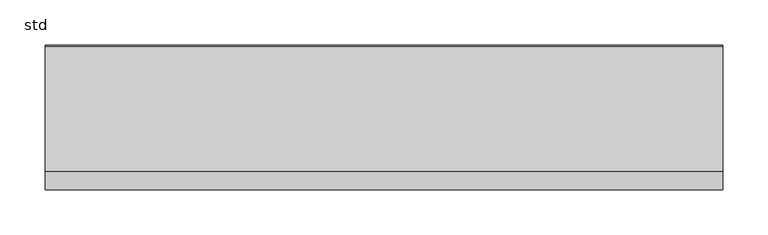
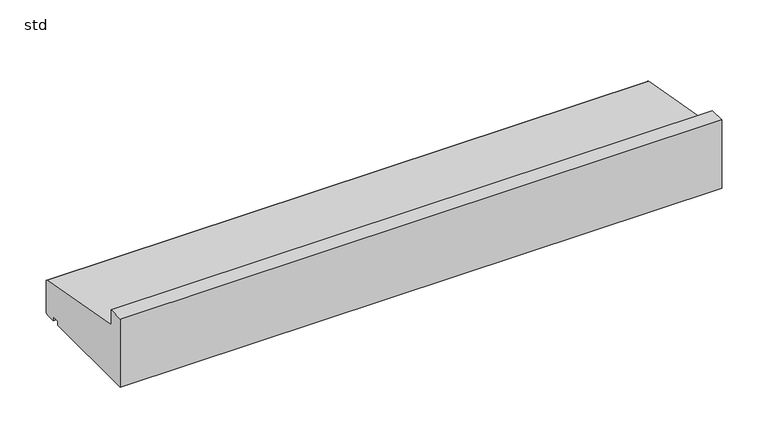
"""IFC4 building model written with IfcOpenShell, lengths in millimetres: proxy geometry, 400_35_NS_raamdorpel_geprofileerd_natuursteen_klik : std."""

from ifc_helpers import new_model, si_unit, point, frame, frame_2d, origin, place, context, project, spatial, polyline, circle_curve, trimmed, segment, composite_curve, outline, extrude, source, transform, mapped, element, save


def std_403fbab1(model_context):
    return source(origin(), model_context, "Body", "SweptSolid", [
        extrude(outline(composite_curve([segment(polyline([(160.0, 2.0), (158.0, 0.0), (145.0, 0.0), (145.0, 5.0), (135.0, 5.0), (135.0, 0.0), (0.0, 0.0), (0.0, 90.0), (20.0, 90.0), (20.0, 70.0), (158.0330017, 45.0)]), True, "CONTINUOUS"), segment(trimmed(circle_curve(frame_2d((158.0330017, 43.0330017)), 1.9669983), [point((158.0330017, 45.0))], [point((160.0, 43.0330017))], False, "CARTESIAN"), True, "CONTINUOUS"), segment(polyline([(160.0, 43.0330017), (160.0, 2.0)]), True, "CONTINUOUS")], self_intersect=False)), frame((-375.0, 0.0, 0.0), z_axis=(1.0, 0.0, 0.0), x_axis=(0.0, 1.0, 0.0)), (0.0, 0.0, 1.0), 750.0),
    ])


if __name__ == "__main__":
    model = new_model("IFC4")
    model_context = context("Model", 3, world=origin())
    ifc_project = project(units=[si_unit("LENGTHUNIT", "METRE", prefix="MILLI")], contexts=[model_context])
    site = spatial("IfcSite", under=ifc_project)
    building = spatial("IfcBuilding", under=site)
    placement = place(None, origin())
    std_shape = std_403fbab1(model_context)
    element("IfcBuildingElementProxy", 1, Name="400_35_NS_raamdorpel_geprofileerd_natuursteen_klik : std", ObjectType="400_35_NS_raamdorpel_geprofileerd_natuursteen_klik : std", at=placement, inside=building, context=model_context, shape_type="MappedRepresentation", body=[
        mapped(std_shape, transform((0.0, 0.0, 0.0), x_axis=(1.0, 0.0, 0.0), y_axis=(0.0, 1.0, 0.0), z_axis=(0.0, 0.0, 1.0))),
    ])
    save(model, "model.ifc")
